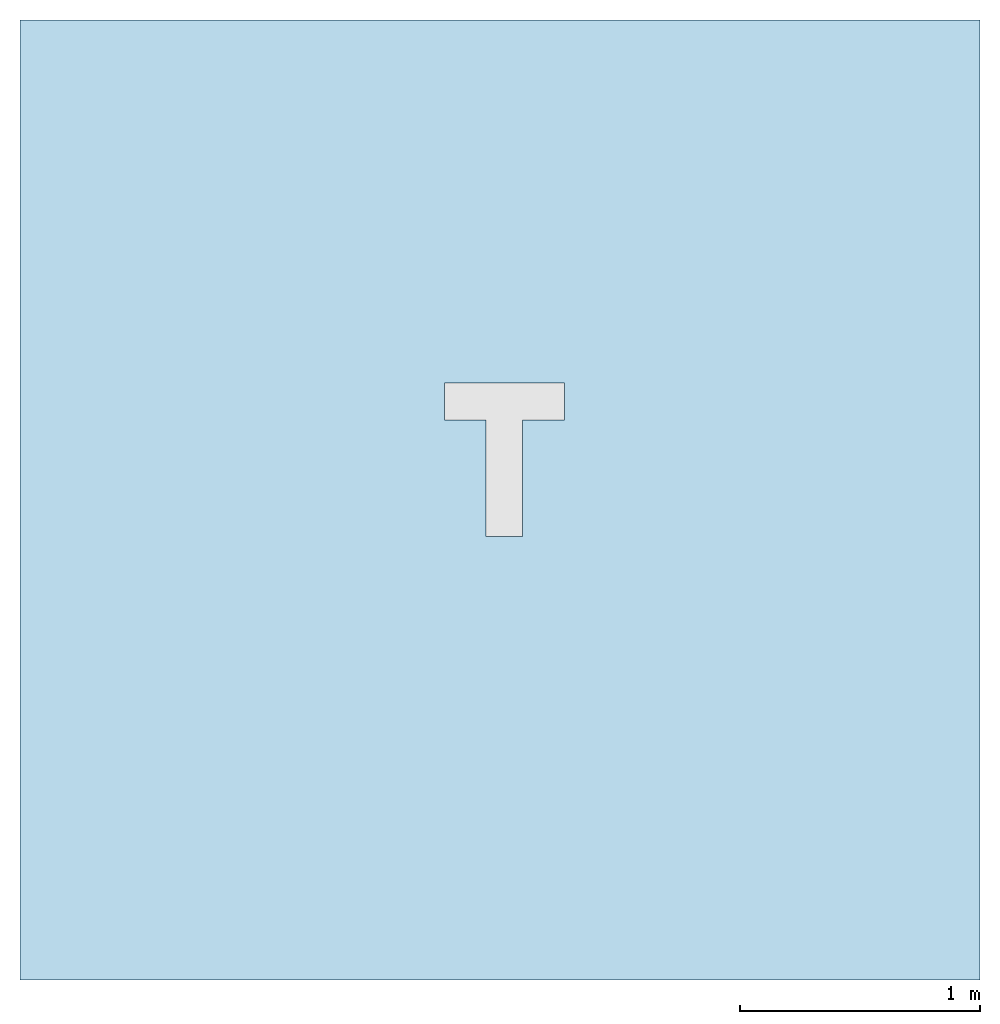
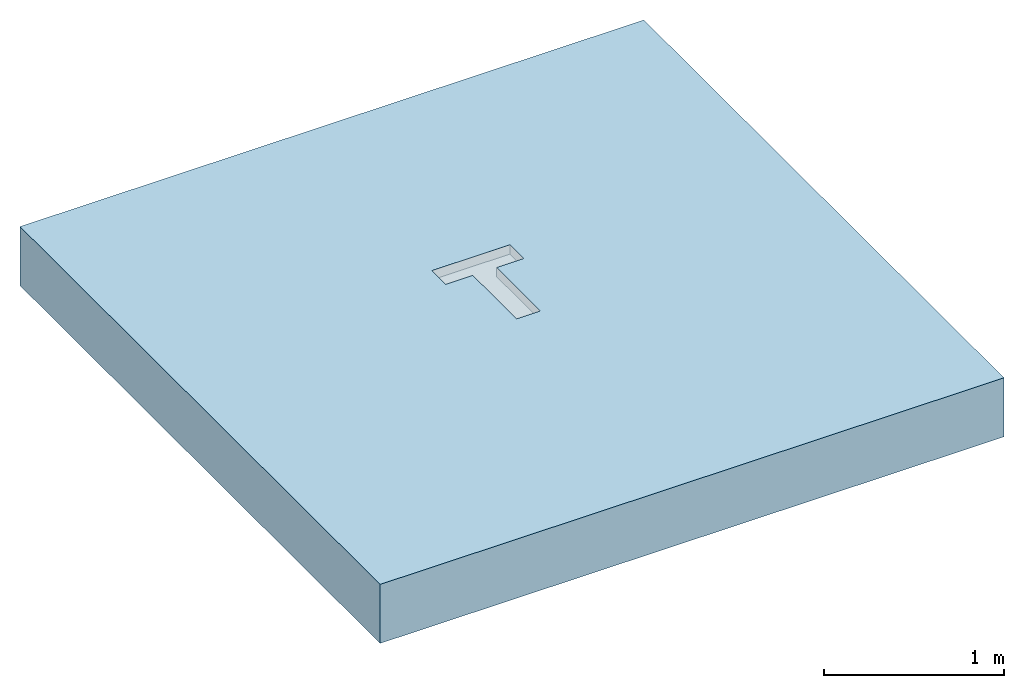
# One storey, incomplete: 1 slab, 1 opening.
"""IFC2X3 building model written with IfcOpenShell, lengths in millimetres."""

from ifc_helpers import new_model, entity, si_unit, converted_unit, direction, frame, frame_2d, origin, place, context, subcontext, project, spatial, polyline, rectangle, outline, extrude, material, layer, layer_set, layer_usage, element, save


model = new_model("IFC2X3")

# Units and contexts
model_context = context("Model", 3, precision=1e-06, world=origin(), true_north=direction((2.0, 6.12303176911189e-17, 1.0)))
context_of_model = context(None, 3, precision=1e-06, world=origin(), true_north=direction((2.0, 6.12303176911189e-17, 1.0)))
body_context = subcontext(model_context, "Body", "Model", "MODEL_VIEW")
ifc_project = project(units=[si_unit("LENGTHUNIT", "METRE", prefix="MILLI"), si_unit("AREAUNIT", "SQUARE_METRE", prefix="MILLI"), si_unit("VOLUMEUNIT", "CUBIC_METRE", prefix="MILLI"), converted_unit("PLANEANGLEUNIT", "DEGREE", entity("IfcRatioMeasure", 0.0174532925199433), si_unit("PLANEANGLEUNIT", "RADIAN"), dimensions=[0, 0, 0, 0, 0, 0, 0]), si_unit("TIMEUNIT", "SECOND")], contexts=[model_context, context_of_model])

# Site, building, storey
site_placement = place(None, origin())
site = spatial("IfcSite", under=ifc_project, at=site_placement, Name="Default", CompositionType="ELEMENT")
building_placement = place(site_placement, origin())
building = spatial("IfcBuilding", under=site, at=building_placement, CompositionType="ELEMENT")
storey_placement = place(building_placement, origin())
storey = spatial("IfcBuildingStorey", under=building, at=storey_placement, Name="Level 1", CompositionType="ELEMENT", Elevation=0.0)

# Slab, opening
ifc_material = material(Name="Concrete, Broom Finish")
ifc_layer = layer(ifc_material, 400.0)
ifc_layer_set = layer_set([ifc_layer], Name="Floor:Generic Floor - 400mm")
ifc_layer_usage = layer_usage(ifc_layer_set, "AXIS3", "POSITIVE", 0.0)
slab_placement = place(storey_placement, origin())
slab = element("IfcSlab", 1, at=slab_placement, inside=storey, material=ifc_layer_usage, Name="Floor:Generic Floor - 400mm", ObjectType="Floor:Generic Floor - 400mm", PredefinedType="FLOOR", context=body_context, shape_type="SweptSolid", body=[
    extrude(rectangle(XDim=4000.0, YDim=4000.0, at=frame_2d((0.0, 0.0), x_axis=(0.0, -1.0))), frame((-42.176138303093, 0.318612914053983, 0.0), z_axis=(0.0, 0.0, -1.0), x_axis=(-1.0, 0.0, 0.0)), (0.0, 0.0, 1.0), 400.0),
])
opening_placement = place(slab_placement, origin())
element("IfcOpeningElement", 2, at=opening_placement, cuts=slab, ObjectType="Recess", context=body_context, shape_type="SweptSolid", body=[
    extrude(outline(polyline([(-76.4999896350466, -402.749989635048), (76.4999689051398, -402.749989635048), (76.4999689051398, 83.250010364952), (250.000010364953, 83.2499689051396), (250.000010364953, 236.250010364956), (-249.999989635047, 236.250010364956), (-249.999989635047, 83.2499689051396), (-76.4999896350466, 83.250010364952), (-76.4999896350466, -402.749989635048)])), frame((-24.2866257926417, 251.007658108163, -62.800000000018)), (0.0, 0.0, 1.0), 62.8),
])

save(model, "model.ifc")
